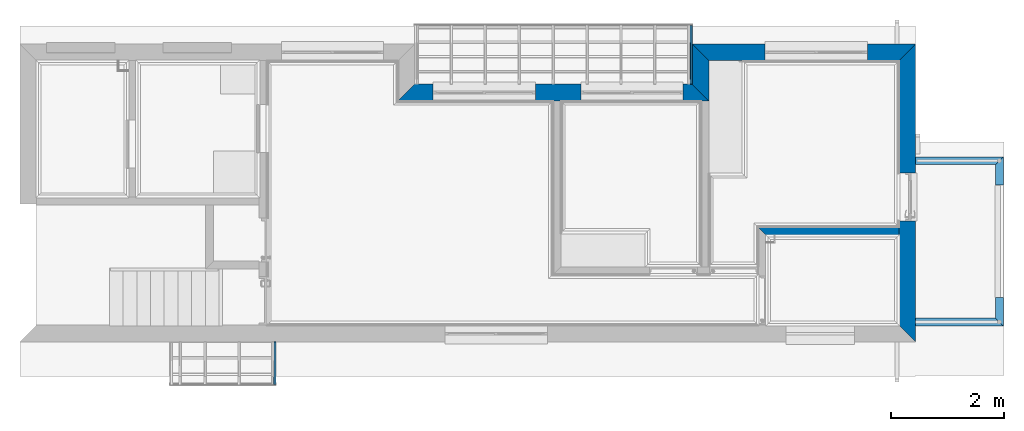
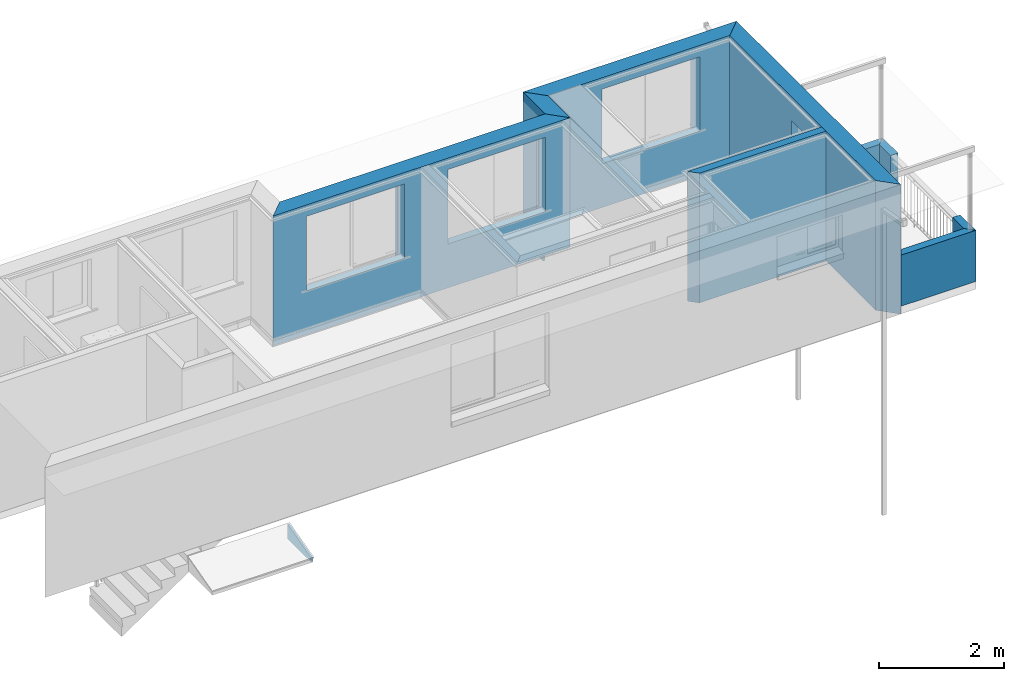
# One storey, part 4 of 18: 11 walls.
"""IFC2X3 building model written with IfcOpenShell, lengths in millimetres."""

from ifc_helpers import new_model, entity, si_unit, converted_unit, money_unit, direction, frame, origin_with_axes, place, context, subcontext, project, spatial, faceted_brep, material, material_list, type_object, element, save


model = new_model("IFC2X3")

# Units and contexts
model_context = context("Model", 3, precision=1e-05, world=origin_with_axes(), true_north=direction((0.0, 1.0)))
body_context = subcontext(model_context, "Body", "Model", "MODEL_VIEW")
ifc_project = project(units=[si_unit("LENGTHUNIT", "METRE", prefix="MILLI"), si_unit("AREAUNIT", "SQUARE_METRE"), si_unit("VOLUMEUNIT", "CUBIC_METRE"), converted_unit("PLANEANGLEUNIT", "DEGREE", entity("IfcPlaneAngleMeasure", 0.0174532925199), si_unit("PLANEANGLEUNIT", "RADIAN"), dimensions=[0, 0, 0, 0, 0, 0, 0]), si_unit("SOLIDANGLEUNIT", "STERADIAN"), money_unit("AUD"), si_unit("TIMEUNIT", "SECOND"), si_unit("MASSUNIT", "GRAM"), si_unit("THERMODYNAMICTEMPERATUREUNIT", "DEGREE_CELSIUS"), si_unit("LUMINOUSINTENSITYUNIT", "LUMEN")], contexts=[model_context])

# Site, building, storey
site_placement = place(None, origin_with_axes())
site = spatial("IfcSite", under=ifc_project, at=site_placement, Name="Lot 1. East Hills", CompositionType="ELEMENT")
building_placement = place(site_placement, origin_with_axes())
building = spatial("IfcBuilding", under=site, at=building_placement, Name="Proposed Units 7 & 8", CompositionType="ELEMENT")
storey_placement = place(building_placement, frame((0.0, 0.0, 5859.0), z_axis=(0.0, 0.0, 1.0), x_axis=(1.0, 0.0, 0.0)))
storey = spatial("IfcBuildingStorey", under=building, at=storey_placement, Name="Level 1", CompositionType="ELEMENT", Elevation=5859.0)

# Walls
ifc_material_1 = material(Name="Brickwork Faced")
ifc_material_2 = material(Name="Cavity")
ifc_material_3 = material(Name="Cement Render")
ifc_material_list_1 = material_list([ifc_material_1, ifc_material_2, ifc_material_1, ifc_material_3])
wall_type_1 = type_object("IfcWallType", Name="Cavity wall 280 295", PredefinedType="NOTDEFINED")
wall_1_placement = place(storey_placement, frame((11880.0, 5263.0, 0.0), z_axis=(0.0, 0.0, 1.0), x_axis=(0.0, -1.0, 0.0)))
element("IfcWall", 1, at=wall_1_placement, inside=storey, type_object=wall_type_1, material=ifc_material_list_1, Name="EXT-WALL-104 Cavity wall 280 Wall", context=body_context, shape_type="Brep", body=[
    faceted_brep([(710.0, 0.0, 2536.0), (1004.99999881, 294.999998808, 2536.0), (294.999998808, 294.999998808, 2536.0), (0.0, 0.0, 2536.0), (710.0, 0.0, 0.0), (1004.99999881, 294.999998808, 0.0), (294.999998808, 294.999998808, 0.0), (0.0, 0.0, 0.0)], [[[0, 1, 2, 3]], [[1, 0, 4, 5]], [[1, 5, 6, 2]], [[3, 2, 6, 7]], [[4, 0, 3, 7]], [[5, 4, 7, 6]]]),
])
wall_2_placement = place(storey_placement, frame((11880.0, 4553.0, 0.0), z_axis=(0.0, 0.0, 1.0), x_axis=(-1.0, 0.0, 0.0)))
element("IfcWall", 2, at=wall_2_placement, inside=storey, type_object=wall_type_1, material=ifc_material_list_1, Name="EXT-WALL-103 Cavity wall 280 Wall", context=body_context, shape_type="Brep", body=[
    faceted_brep([(0.0, 0.0, 2536.0), (0.0, 0.0, 0.0), (4905.0, 0.0, 0.0), (4905.0, 0.0, 2536.0), (1967.50000045, 0.0, 711.050785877), (157.500000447, 0.0, 711.050785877), (157.500000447, 0.0, 857.0), (157.500000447, 0.0, 2314.0), (1967.50000045, 0.0, 2314.0), (1967.50000045, 0.0, 857.0), (2770.0, 0.0, 711.050785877), (2770.0, 0.0, 2314.0), (4580.0, 0.0, 2314.0), (4580.0, 0.0, 711.050785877), (-294.999998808, 294.999998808, 0.0), (-294.999998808, 294.999998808, 2536.0), (5199.99999881, 294.999998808, 0.0), (5199.99999881, 294.999998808, 2536.0), (1967.50000045, 157.504447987, 711.050785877), (157.500000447, 157.504447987, 711.050785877), (157.500000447, 157.504447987, 857.0), (157.500000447, 120.0, 857.0), (157.500000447, 120.0, 2314.0), (1967.50000045, 120.0, 2314.0), (1967.50000045, 120.0, 857.0), (1967.50000045, 157.504447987, 857.0), (2770.0, 157.504447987, 857.0), (2770.0, 120.0, 857.0), (2770.0, 120.0, 2314.0), (2770.0, 157.504447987, 711.050785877), (4580.0, 120.0, 2314.0), (4580.0, 120.0, 857.0), (4580.0, 157.504447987, 857.0), (4580.0, 157.504447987, 711.050785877), (4580.0, 294.999998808, 857.0), (4580.0, 294.999998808, 2314.0), (2770.0, 294.999998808, 2314.0), (2770.0, 294.999998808, 857.0), (157.500000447, 294.999998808, 857.0), (1967.50000045, 294.999998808, 857.0), (1967.50000045, 294.999998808, 2314.0), (157.500000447, 294.999998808, 2314.0)], [[[0, 1, 2, 3], [4, 5, 6, 7, 8, 9], [10, 11, 12, 13]], [[14, 1, 0, 15]], [[1, 14, 16, 2]], [[2, 16, 17, 3]], [[15, 0, 3, 17]], [[5, 4, 18, 19]], [[6, 5, 19, 20, 21, 22, 7]], [[7, 22, 23, 8]], [[24, 25, 18, 4, 9, 8, 23]], [[26, 27, 28, 11, 10, 29]], [[28, 30, 12, 11]], [[13, 12, 30, 31, 32, 33]], [[13, 33, 29, 10]], [[14, 15, 17, 16], [34, 35, 36, 37], [38, 39, 40, 41]], [[25, 20, 19, 18]], [[21, 20, 38, 41, 22]], [[40, 23, 22, 41]], [[25, 24, 23, 40, 39]], [[37, 36, 28, 27, 26]], [[26, 29, 33, 32]], [[30, 28, 36, 35]], [[30, 35, 34, 32, 31]], [[32, 34, 37, 26]], [[20, 25, 39, 38]]]),
])
wall_3_placement = place(storey_placement, frame((15830.0, 5263.0, 0.0), z_axis=(0.0, 0.0, 1.0), x_axis=(-1.0, 0.0, 0.0)))
element("IfcWall", 3, at=wall_3_placement, inside=storey, type_object=wall_type_1, material=ifc_material_list_1, Name="EXT-WALL-105 Cavity wall 280 Wall", context=body_context, shape_type="Brep", body=[
    faceted_brep([(3950.0, 0.0, 2536.0), (0.0, 0.0, 2536.0), (0.0, 0.0, 0.0), (3950.0, 0.0, 0.0), (2658.20410456, 0.0, 711.050785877), (848.204104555, 0.0, 711.050785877), (848.204104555, 0.0, 857.0), (848.204104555, 0.0, 2314.0), (2658.20410456, 0.0, 2314.0), (2658.20410456, 0.0, 857.0), (3655.00000119, 294.999998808, 2536.0), (294.999998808, 294.999998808, 2536.0), (294.999998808, 294.999998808, 0.0), (3655.00000119, 294.999998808, 0.0), (2658.20410456, 157.504447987, 711.050785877), (848.204104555, 157.504447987, 711.050785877), (848.204104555, 157.504447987, 857.0), (848.204104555, 120.0, 857.0), (848.204104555, 120.0, 2314.0), (2658.20410456, 120.0, 2314.0), (2658.20410456, 120.0, 857.0), (2658.20410456, 157.504447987, 857.0), (848.204104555, 294.999998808, 857.0), (2658.20410456, 294.999998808, 857.0), (2658.20410456, 294.999998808, 2314.0), (848.204104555, 294.999998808, 2314.0)], [[[0, 1, 2, 3], [4, 5, 6, 7, 8, 9]], [[10, 11, 1, 0]], [[11, 12, 2, 1]], [[3, 2, 12, 13]], [[0, 3, 13, 10]], [[5, 4, 14, 15]], [[6, 5, 15, 16, 17, 18, 7]], [[7, 18, 19, 8]], [[20, 21, 14, 4, 9, 8, 19]], [[13, 12, 11, 10], [22, 23, 24, 25]], [[21, 16, 15, 14]], [[17, 16, 22, 25, 18]], [[24, 19, 18, 25]], [[21, 20, 19, 24, 23]], [[16, 21, 23, 22]]]),
])
wall_4_placement = place(storey_placement, frame((15830.0, -2.01756233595, 0.0), z_axis=(0.0, 0.0, 1.0), x_axis=(0.0, 1.0, 0.0)))
element("IfcWall", 4, at=wall_4_placement, inside=storey, type_object=wall_type_1, material=ifc_material_list_1, Name="EXT-WALL-106 Cavity wall 280 Wall", context=body_context, shape_type="Brep", body=[
    faceted_brep([(2138.33866608, 80.0, 2067.0), (2988.33866608, 80.0, 2067.0), (2988.33866608, 0.0, 2067.0), (2138.33866608, 0.0, 2067.0), (2138.33866608, 294.999998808, 2067.0), (2988.33866608, 294.999998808, 2067.0), (2988.33866608, 80.0, 0.0), (2988.33866608, 0.0, 0.0), (0.0, 0.0, 0.0), (2138.33866608, 0.0, 0.0), (5265.01756234, 0.0, 0.0), (5265.01756234, 0.0, 2536.0), (0.0, 0.0, 2536.0), (2138.33866608, 80.0, 0.0), (2138.33866608, 294.999998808, 0.0), (295.000326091, 294.999998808, 0.0), (295.000326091, 294.999998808, 2536.0), (4970.01756353, 294.999998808, 2536.0), (4970.01756353, 294.999998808, 0.0), (2988.33866608, 294.999998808, 0.0)], [[[0, 1, 2, 3]], [[1, 0, 4, 5]], [[1, 6, 7, 2]], [[8, 9, 3, 2, 7, 10, 11, 12]], [[13, 0, 3, 9]], [[0, 13, 14, 4]], [[4, 14, 15, 16, 17, 18, 19, 5]], [[6, 1, 5, 19]], [[6, 19, 18, 10, 7]], [[14, 13, 9, 8, 15]], [[10, 18, 17, 11]], [[16, 12, 11, 17]], [[15, 8, 12, 16]]]),
])
ifc_material_list_2 = material_list([ifc_material_3, ifc_material_1, ifc_material_3])
wall_type_2 = type_object("IfcWallType", Name="Solid Brick Render Both Side 140 140", PredefinedType="NOTDEFINED")
wall_5_placement = place(storey_placement, frame((13050.0003676, 1882.99999933, 0.0), z_axis=(0.0, 0.0, 1.0), x_axis=(1.0, 0.0, 0.0)))
element("IfcWall", 5, at=wall_5_placement, inside=storey, type_object=wall_type_2, material=ifc_material_list_2, Name="Wall008 Solid Brick Render Both Side 140 Wall", context=body_context, shape_type="Brep", body=[
    faceted_brep([(2484.99963357, 0.0, 2536.0), (2484.99963357, 140.000007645, 2536.0), (7.76604469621e-05, 140.000077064, 2536.0), (139.999999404, 0.0, 2536.0), (2484.99963357, 140.000007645, 0.0), (2484.99963357, 0.0, 0.0), (7.76604469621e-05, 140.000077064, 0.0), (139.999999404, 0.0, 0.0)], [[[0, 1, 2, 3]], [[4, 1, 0, 5]], [[1, 4, 6, 2]], [[3, 2, 6, 7]], [[5, 0, 3, 7]], [[4, 5, 7, 6]]]),
])
ifc_material_4 = material(Name="Empty Fill")
wall_type_3 = type_object("IfcWallType", Name="Empty Fill 35", PredefinedType="NOTDEFINED")
wall_6_placement = place(storey_placement, frame((4488.41720971, -751.424784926, -417.797689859), z_axis=(0.0, 0.0, 1.0), x_axis=(0.0, 1.0, 0.0)))
element("IfcWall", 6, at=wall_6_placement, inside=storey, type_object=wall_type_3, material=ifc_material_4, Name="Wall006 Empty Fill Wall", context=body_context, shape_type="Brep", body=[
    faceted_brep([(0.0, -35.0, 0.0), (749.422050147, -35.0, 0.0), (749.422050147, -35.0, 281.693199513), (0.0, -35.0, 80.8861663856), (0.0, 0.0, 0.0), (749.422050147, 0.0, 0.0), (749.422050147, 0.0, 281.693199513), (0.0, 0.0, 80.8861663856)], [[[0, 1, 2, 3]], [[4, 5, 1, 0]], [[5, 6, 2, 1]], [[2, 6, 7, 3]], [[7, 4, 0, 3]], [[4, 7, 6, 5]]]),
])
wall_7_placement = place(storey_placement, frame((11879.0000007, 5588.73573739, -331.797689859), z_axis=(0.0, 0.0, 1.0), x_axis=(-6.47417450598e-10, -1.0, 0.0)))
element("IfcWall", 7, at=wall_7_placement, inside=storey, type_object=wall_type_3, material=ifc_material_4, Name="Wall006 Empty Fill Wall", context=body_context, shape_type="Brep", body=[
    faceted_brep([(0.0, -35.0, 91.4554372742), (0.0, 0.0, 91.4554373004), (0.0, 0.0, 0.0), (0.0, -35.0, 0.0), (1035.73573739, 0.0, 689.437744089), (1035.73573743, -35.0, 689.437744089), (1035.73573739, 0.0, 0.0), (1035.73573739, -35.0, 0.0)], [[[0, 1, 2, 3]], [[4, 1, 0, 5]], [[1, 4, 6, 2]], [[3, 2, 6, 7]], [[5, 0, 3, 7]], [[4, 5, 7, 6]]]),
])
ifc_material_5 = material(Name="Concrete Block")
ifc_material_list_3 = material_list([ifc_material_5])
wall_type_4 = type_object("IfcWallType", Name="Concrete Block 140 140", PredefinedType="NOTDEFINED")
wall_8_placement = place(storey_placement, frame((17380.0, 780.000032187, -75.0), z_axis=(0.0, 0.0, 1.0), x_axis=(0.0, -1.0, 0.0)))
element("IfcWall", 8, at=wall_8_placement, inside=storey, type_object=wall_type_4, material=ifc_material_list_3, Name="Wall008 Concrete Block 140 Wall", context=body_context, shape_type="Brep", body=[
    faceted_brep([(360.0, -140.0, 1000.0), (500.0, 0.0, 1000.0), (0.0, 0.0, 1000.0), (0.0, -140.0, 1000.0), (360.0, -140.0, 0.0), (500.0, 0.0, 0.0), (0.0, 0.0, 0.0), (0.0, -140.0, 0.0)], [[[0, 1, 2, 3]], [[1, 0, 4, 5]], [[1, 5, 6, 2]], [[2, 6, 7, 3]], [[4, 0, 3, 7]], [[5, 4, 7, 6]]]),
])
wall_9_placement = place(storey_placement, frame((17380.0, 280.000032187, -75.0), z_axis=(0.0, 0.0, 1.0), x_axis=(-1.0, 0.0, 0.0)))
element("IfcWall", 9, at=wall_9_placement, inside=storey, type_object=wall_type_4, material=ifc_material_list_3, Name="Wall009 Concrete Block 140 Wall", context=body_context, shape_type="Brep", body=[
    faceted_brep([(0.0, 0.0, 0.0), (0.0, 0.0, 1000.0), (1550.0, 0.0, 1000.0), (1550.0, 0.0, 0.0), (140.0, -140.0, 1000.0), (140.0, -140.0, 0.0), (1550.0, -140.0, 1000.0), (1550.0, -140.0, 0.0)], [[[0, 1, 2, 3]], [[4, 1, 0, 5]], [[1, 4, 6, 2]], [[3, 2, 6, 7]], [[5, 0, 3, 7]], [[4, 5, 7, 6]]]),
])
wall_10_placement = place(storey_placement, frame((17380.0, 3269.99994807, -75.0), z_axis=(0.0, 0.0, 1.0), x_axis=(0.0, -1.0, 0.0)))
element("IfcWall", 10, at=wall_10_placement, inside=storey, type_object=wall_type_4, material=ifc_material_list_3, Name="Wall008 Concrete Block 140 Wall", context=body_context, shape_type="Brep", body=[
    faceted_brep([(0.0, 0.0, 0.0), (0.0, 0.0, 1000.0), (500.0, 0.0, 1000.0), (500.0, 0.0, 0.0), (140.0, -140.0, 1000.0), (140.0, -140.0, 0.0), (500.0, -140.0, 1000.0), (500.0, -140.0, 0.0)], [[[0, 1, 2, 3]], [[4, 1, 0, 5]], [[1, 4, 6, 2]], [[3, 2, 6, 7]], [[5, 0, 3, 7]], [[4, 5, 7, 6]]]),
])
wall_11_placement = place(storey_placement, frame((15830.0, 3269.99994807, -75.0), z_axis=(0.0, 0.0, 1.0), x_axis=(1.0, 0.0, 0.0)))
element("IfcWall", 11, at=wall_11_placement, inside=storey, type_object=wall_type_4, material=ifc_material_list_3, Name="Wall007 Concrete Block 140 Wall", context=body_context, shape_type="Brep", body=[
    faceted_brep([(1410.0, -140.0, 1000.0), (1550.0, 0.0, 1000.0), (0.0, 0.0, 1000.0), (0.0, -140.0, 1000.0), (1410.0, -140.0, 0.0), (1550.0, 0.0, 0.0), (0.0, 0.0, 0.0), (0.0, -140.0, 0.0)], [[[0, 1, 2, 3]], [[1, 0, 4, 5]], [[1, 5, 6, 2]], [[2, 6, 7, 3]], [[4, 0, 3, 7]], [[5, 4, 7, 6]]]),
])

save(model, "model.ifc")
